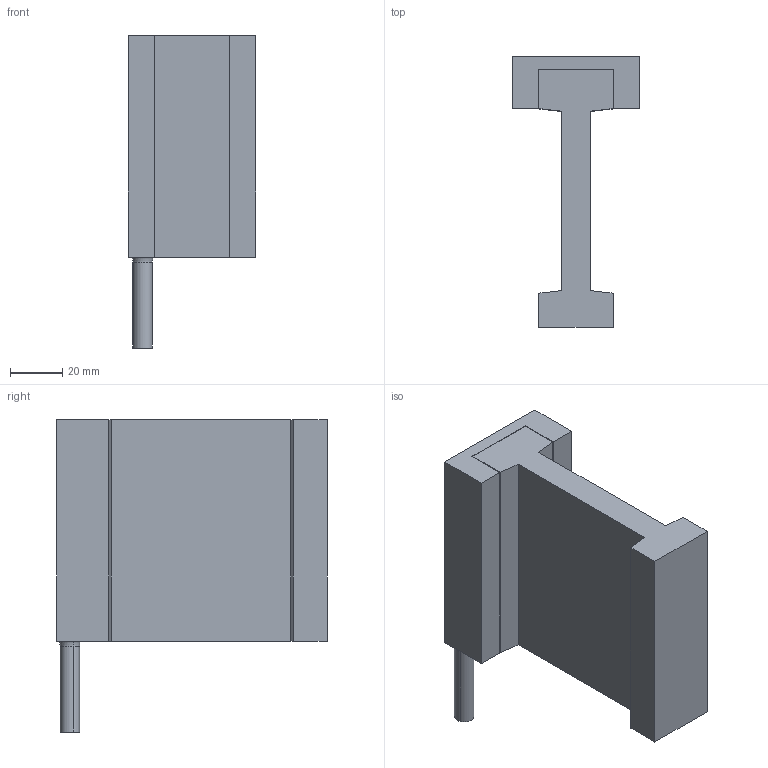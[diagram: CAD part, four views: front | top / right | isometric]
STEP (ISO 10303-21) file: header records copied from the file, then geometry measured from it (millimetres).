
FILE_DESCRIPTION (( 'STEP AP214' ), '1' );
FILE_NAME ('DX65F-C1-NH.step', '2022-09-22T03:41:42', ( '' ), ( '' ), 'SwSTEP 2.0', 'SolidWorks 2020', '' );
FILE_SCHEMA (( 'AUTOMOTIVE_DESIGN' ));
Length unit declared in the file: millimetre
Products named in the file (1): DX65F-C1-NH
Bounding box: 49 x 104 x 120 mm (x, y, z)
Volume: 182149.4 mm3; surface area: 45363.5 mm2
Topology: 3 solids, 3 shells, 61 faces, 144 edges, 88 vertices
Faces by surface type: plane 31, cylinder 20, cone 8, torus 2
Entity records: 2415 total; most frequent: DIRECTION 302, CARTESIAN_POINT 286, ORIENTED_EDGE 272, EDGE_CURVE 136, AXIS2_PLACEMENT_3D 104, LINE 94, VECTOR 94, VERTEX_POINT 88
